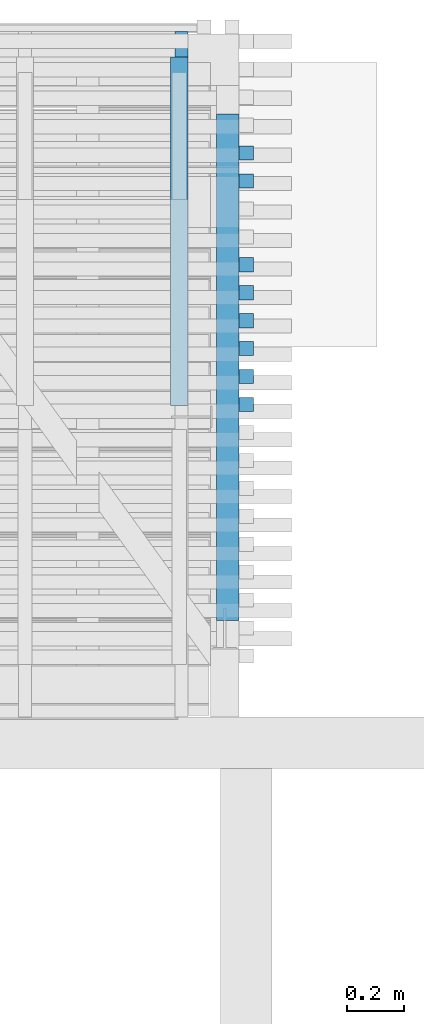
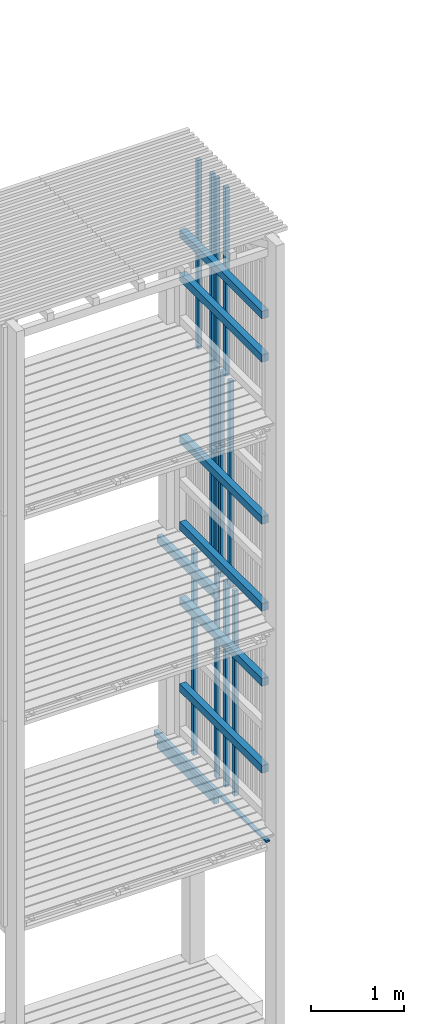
# One storey, part 156 of 182: 21 beams.
"""IFC2X3 building model written with IfcOpenShell, lengths in metres."""

from ifc_helpers import new_model, si_unit, frame, origin, place, context, project, spatial, faceted_brep, element, save


model = new_model("IFC2X3")

# Units and contexts
model_context = context("Model", 3, precision=1e-06, world=origin())
ifc_project = project(units=[si_unit("LENGTHUNIT", "METRE"), si_unit("PLANEANGLEUNIT", "RADIAN")], contexts=[model_context])

# Site, building, storey
site = spatial("IfcSite", under=ifc_project, CompositionType="ELEMENT")
building = spatial("IfcBuilding", under=site, CompositionType="ELEMENT")
storey = spatial("IfcBuildingStorey", under=building, Name="vs", CompositionType="ELEMENT", Elevation=-0.85)

# Beams
placement = place(None, origin())
beam_1_placement = place(placement, frame((36.40999999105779, 12.452350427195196, 2.575000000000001), z_axis=(-1.0, 0.0, 0.0), x_axis=(0.0, 0.0, 1.0)))
element("IfcBeam", 1, at=beam_1_placement, inside=storey, Name="Bardage", context=model_context, shape_type="Brep", body=[
    faceted_brep([(0.0, -0.024999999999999, 0.024999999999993), (0.0, 0.025000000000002, 0.024999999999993), (0.0, 0.025000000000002, -0.025000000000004), (0.0, -0.024999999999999, -0.025000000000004), (2.699961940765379, 0.025000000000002, -0.025000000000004), (2.699961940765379, 0.025000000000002, 0.024999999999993), (2.699961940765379, -0.024999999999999, 0.024999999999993), (2.699961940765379, -0.024999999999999, -0.025000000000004), (0.0, -0.024999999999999, -0.025000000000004), (0.0, 0.025000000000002, -0.025000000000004), (2.699961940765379, 0.025000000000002, -0.025000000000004), (2.699961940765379, -0.024999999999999, -0.025000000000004), (2.699961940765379, 0.025000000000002, -0.025000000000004), (0.0, 0.025000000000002, -0.025000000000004), (0.0, 0.025000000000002, 0.024999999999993), (2.699961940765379, 0.025000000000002, 0.024999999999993), (2.699961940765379, 0.025000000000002, 0.024999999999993), (0.0, 0.025000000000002, 0.024999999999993), (0.0, -0.024999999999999, 0.024999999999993), (2.699961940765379, -0.024999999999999, 0.024999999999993), (2.699961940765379, -0.024999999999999, 0.024999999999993), (0.0, -0.024999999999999, 0.024999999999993), (0.0, -0.024999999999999, -0.025000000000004), (2.699961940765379, -0.024999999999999, -0.025000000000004)], [[[0, 1, 2, 3]], [[4, 5, 6, 7]], [[8, 9, 10, 11]], [[12, 13, 14, 15]], [[16, 17, 18, 19]], [[20, 21, 22, 23]]]),
])
beam_2_placement = place(placement, frame((36.40999999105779, 11.961441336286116, 2.575000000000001), z_axis=(-1.0, 0.0, 0.0), x_axis=(0.0, 0.0, 1.0)))
element("IfcBeam", 2, at=beam_2_placement, inside=storey, Name="Bardage", context=model_context, shape_type="Brep", body=[
    faceted_brep([(0.0, -0.025000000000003, 0.024999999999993), (0.0, 0.024999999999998, 0.024999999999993), (0.0, 0.024999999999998, -0.025000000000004), (0.0, -0.025000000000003, -0.025000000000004), (2.699961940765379, 0.024999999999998, -0.025000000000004), (2.699961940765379, 0.024999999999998, 0.024999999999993), (2.699961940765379, -0.025000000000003, 0.024999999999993), (2.699961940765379, -0.025000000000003, -0.025000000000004), (0.0, -0.025000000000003, -0.025000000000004), (0.0, 0.024999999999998, -0.025000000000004), (2.699961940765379, 0.024999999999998, -0.025000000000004), (2.699961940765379, -0.025000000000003, -0.025000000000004), (2.699961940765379, 0.024999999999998, -0.025000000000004), (0.0, 0.024999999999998, -0.025000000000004), (0.0, 0.024999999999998, 0.024999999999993), (2.699961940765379, 0.024999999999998, 0.024999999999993), (2.699961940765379, 0.024999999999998, 0.024999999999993), (0.0, 0.024999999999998, 0.024999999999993), (0.0, -0.025000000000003, 0.024999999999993), (2.699961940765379, -0.025000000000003, 0.024999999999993), (2.699961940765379, -0.025000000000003, 0.024999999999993), (0.0, -0.025000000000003, 0.024999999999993), (0.0, -0.025000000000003, -0.025000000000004), (2.699961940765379, -0.025000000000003, -0.025000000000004)], [[[0, 1, 2, 3]], [[4, 5, 6, 7]], [[8, 9, 10, 11]], [[12, 13, 14, 15]], [[16, 17, 18, 19]], [[20, 21, 22, 23]]]),
])
beam_3_placement = place(placement, frame((36.182499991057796, 10.470077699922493, 2.684400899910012), z_axis=(0.0, 0.0, 1.0), x_axis=(0.0, 1.0, 0.0)))
element("IfcBeam", 3, at=beam_3_placement, inside=storey, Name="Calage", context=model_context, shape_type="Brep", body=[
    faceted_brep([(2.410000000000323, -0.022499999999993, -0.035599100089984), (0.0, -0.022499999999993, 0.012600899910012), (0.0, 0.022500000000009, 0.012600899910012), (2.410000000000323, 0.022500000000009, -0.035599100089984), (0.0, 0.022500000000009, 0.035599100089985), (0.0, 0.022500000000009, 0.012600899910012), (0.0, -0.022499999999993, 0.012600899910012), (0.0, -0.022499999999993, 0.035599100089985), (2.410000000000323, 0.022500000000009, -0.035599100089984), (0.0, 0.022500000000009, 0.012600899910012), (0.0, 0.022500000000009, 0.035599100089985), (2.410000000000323, 0.022500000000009, 0.035599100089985), (2.410000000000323, -0.022499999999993, 0.035599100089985), (0.0, -0.022499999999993, 0.035599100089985), (0.0, -0.022499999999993, 0.012600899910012), (2.410000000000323, -0.022499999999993, -0.035599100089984), (2.410000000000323, 0.022500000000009, 0.035599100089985), (0.0, 0.022500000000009, 0.035599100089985), (0.0, -0.022499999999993, 0.035599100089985), (2.410000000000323, -0.022499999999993, 0.035599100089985), (2.410000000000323, 0.022500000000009, -0.035599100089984), (2.410000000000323, 0.022500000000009, 0.035599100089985), (2.410000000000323, -0.022499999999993, 0.035599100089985), (2.410000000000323, -0.022499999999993, -0.035599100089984)], [[[0, 1, 2, 3]], [[4, 5, 6, 7]], [[8, 9, 10, 11]], [[12, 13, 14, 15]], [[16, 17, 18, 19]], [[20, 21, 22, 23]]]),
])
beam_4_placement = place(placement, frame((36.344999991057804, 10.8100776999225, 6.672499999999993), z_axis=(0.0, 0.0, 1.0), x_axis=(0.0, 1.0, 0.0)))
element("IfcBeam", 4, at=beam_4_placement, inside=storey, Name="Support bardage", context=model_context, shape_type="Brep", body=[
    faceted_brep([(1.779999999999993, -0.039999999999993, 0.050000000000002), (1.779999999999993, -0.039999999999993, -0.05), (1.779999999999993, 0.04000000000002, -0.05), (1.779999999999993, 0.04000000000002, 0.050000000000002), (-4e-15, -0.039999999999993, -0.05), (1.779999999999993, -0.039999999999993, -0.05), (1.779999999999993, -0.039999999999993, 0.050000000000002), (-4e-15, -0.039999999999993, 0.050000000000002), (-4e-15, 0.04000000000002, -0.05), (1.779999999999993, 0.04000000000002, -0.05), (1.779999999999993, -0.039999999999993, -0.05), (-4e-15, -0.039999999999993, -0.05), (-4e-15, 0.04000000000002, 0.050000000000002), (1.779999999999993, 0.04000000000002, 0.050000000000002), (1.779999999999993, 0.04000000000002, -0.05), (-4e-15, 0.04000000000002, -0.05), (-4e-15, -0.039999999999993, 0.050000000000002), (1.779999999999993, -0.039999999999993, 0.050000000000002), (1.779999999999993, 0.04000000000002, 0.050000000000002), (-4e-15, 0.04000000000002, 0.050000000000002), (-4e-15, -0.039999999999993, -0.05), (-4e-15, -0.039999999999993, 0.050000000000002), (-4e-15, 0.04000000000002, 0.050000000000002), (-4e-15, 0.04000000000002, -0.05)], [[[0, 1, 2, 3]], [[4, 5, 6, 7]], [[8, 9, 10, 11]], [[12, 13, 14, 15]], [[16, 17, 18, 19]], [[20, 21, 22, 23]]]),
])
beam_5_placement = place(placement, frame((36.40999999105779, 11.863259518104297, 5.274999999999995), z_axis=(-1.0, 0.0, 0.0), x_axis=(0.0, 0.0, 1.0)))
element("IfcBeam", 5, at=beam_5_placement, inside=storey, Name="Bardage", context=model_context, shape_type="Brep", body=[
    faceted_brep([(1e-15, -0.024999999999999, 0.024999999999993), (1e-15, 0.024999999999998, 0.024999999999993), (1e-15, 0.024999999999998, -0.025000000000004), (1e-15, -0.024999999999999, -0.025000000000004), (2.699999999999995, -0.024999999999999, -0.025000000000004), (2.699999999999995, 0.024999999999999, -0.025000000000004), (2.699999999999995, 0.024999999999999, 0.024999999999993), (2.699999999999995, -0.024999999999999, 0.024999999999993), (1e-15, -0.024999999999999, 0.024999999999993), (1e-15, -0.024999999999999, -0.025000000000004), (2.699999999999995, -0.024999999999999, -0.025000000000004), (2.699999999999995, -0.024999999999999, 0.024999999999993), (2.699999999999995, -0.024999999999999, -0.025000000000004), (1e-15, -0.024999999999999, -0.025000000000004), (1e-15, 0.024999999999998, -0.025000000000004), (2.699999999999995, 0.024999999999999, -0.025000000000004), (2.699999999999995, 0.024999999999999, -0.025000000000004), (1e-15, 0.024999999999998, -0.025000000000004), (1e-15, 0.024999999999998, 0.024999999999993), (2.699999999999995, 0.024999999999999, 0.024999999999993), (2.699999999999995, 0.024999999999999, 0.024999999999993), (1e-15, 0.024999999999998, 0.024999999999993), (1e-15, -0.024999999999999, 0.024999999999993), (2.699999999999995, -0.024999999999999, 0.024999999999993)], [[[0, 1, 2, 3]], [[4, 5, 6, 7]], [[8, 9, 10, 11]], [[12, 13, 14, 15]], [[16, 17, 18, 19]], [[20, 21, 22, 23]]]),
])
beam_6_placement = place(placement, frame((36.344999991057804, 10.8100776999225, 3.401250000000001), z_axis=(0.0, 0.0, 1.0), x_axis=(0.0, 1.0, 0.0)))
element("IfcBeam", 6, at=beam_6_placement, inside=storey, Name="Support bardage", context=model_context, shape_type="Brep", body=[
    faceted_brep([(1.779999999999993, -0.039999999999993, 0.05), (1.779999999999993, -0.039999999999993, -0.050000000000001), (1.779999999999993, 0.04000000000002, -0.050000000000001), (1.779999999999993, 0.04000000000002, 0.05), (-4e-15, -0.039999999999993, -0.050000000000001), (1.779999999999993, -0.039999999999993, -0.050000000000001), (1.779999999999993, -0.039999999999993, 0.05), (-4e-15, -0.039999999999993, 0.05), (-4e-15, 0.04000000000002, -0.050000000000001), (1.779999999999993, 0.04000000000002, -0.050000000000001), (1.779999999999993, -0.039999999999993, -0.050000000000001), (-4e-15, -0.039999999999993, -0.050000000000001), (-4e-15, 0.04000000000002, 0.05), (1.779999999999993, 0.04000000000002, 0.05), (1.779999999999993, 0.04000000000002, -0.050000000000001), (-4e-15, 0.04000000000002, -0.050000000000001), (-4e-15, -0.039999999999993, 0.05), (1.779999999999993, -0.039999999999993, 0.05), (1.779999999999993, 0.04000000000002, 0.05), (-4e-15, 0.04000000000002, 0.05), (-4e-15, -0.039999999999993, -0.050000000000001), (-4e-15, -0.039999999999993, 0.05), (-4e-15, 0.04000000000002, 0.05), (-4e-15, 0.04000000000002, -0.050000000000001)], [[[0, 1, 2, 3]], [[4, 5, 6, 7]], [[8, 9, 10, 11]], [[12, 13, 14, 15]], [[16, 17, 18, 19]], [[20, 21, 22, 23]]]),
])
beam_7_placement = place(placement, frame((36.40999999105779, 11.568714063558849, 2.575000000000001), z_axis=(-1.0, 0.0, 0.0), x_axis=(0.0, 0.0, 1.0)))
element("IfcBeam", 7, at=beam_7_placement, inside=storey, Name="Bardage", context=model_context, shape_type="Brep", body=[
    faceted_brep([(0.0, -0.024999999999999, 0.024999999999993), (0.0, 0.024999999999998, 0.024999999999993), (0.0, 0.024999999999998, -0.025000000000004), (0.0, -0.024999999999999, -0.025000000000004), (2.699961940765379, 0.024999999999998, -0.025000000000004), (2.699961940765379, 0.024999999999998, 0.024999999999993), (2.699961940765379, -0.024999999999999, 0.024999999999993), (2.699961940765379, -0.024999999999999, -0.025000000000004), (0.0, -0.024999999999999, -0.025000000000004), (0.0, 0.024999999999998, -0.025000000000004), (2.699961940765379, 0.024999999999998, -0.025000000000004), (2.699961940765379, -0.024999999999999, -0.025000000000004), (2.699961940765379, 0.024999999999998, -0.025000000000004), (0.0, 0.024999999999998, -0.025000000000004), (0.0, 0.024999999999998, 0.024999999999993), (2.699961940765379, 0.024999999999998, 0.024999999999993), (2.699961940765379, 0.024999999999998, 0.024999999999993), (0.0, 0.024999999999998, 0.024999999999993), (0.0, -0.024999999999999, 0.024999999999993), (2.699961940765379, -0.024999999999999, 0.024999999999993), (2.699961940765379, -0.024999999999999, 0.024999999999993), (0.0, -0.024999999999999, 0.024999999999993), (0.0, -0.024999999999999, -0.025000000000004), (2.699961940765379, -0.024999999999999, -0.025000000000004)], [[[0, 1, 2, 3]], [[4, 5, 6, 7]], [[8, 9, 10, 11]], [[12, 13, 14, 15]], [[16, 17, 18, 19]], [[20, 21, 22, 23]]]),
])
beam_8_placement = place(placement, frame((36.40999999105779, 12.059623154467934, 7.974999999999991), z_axis=(-1.0, 0.0, 0.0), x_axis=(0.0, 0.0, 1.0)))
element("IfcBeam", 8, at=beam_8_placement, inside=storey, Name="Bardage", context=model_context, shape_type="Brep", body=[
    faceted_brep([(2.479999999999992, -0.025000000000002, 0.024999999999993), (2.479999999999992, -0.025000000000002, -0.025000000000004), (2.479999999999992, 0.024999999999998, -0.025000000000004), (2.479999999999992, 0.024999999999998, 0.024999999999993), (0.0, 0.024999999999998, 0.024999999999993), (0.0, -0.025000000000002, 0.024999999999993), (2.479999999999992, -0.025000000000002, 0.024999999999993), (2.479999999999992, 0.024999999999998, 0.024999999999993), (0.0, -0.025000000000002, 0.024999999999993), (0.0, 0.024999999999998, 0.024999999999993), (0.0, 0.024999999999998, -0.025000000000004), (0.0, -0.025000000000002, -0.025000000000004), (0.0, 0.024999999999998, -0.025000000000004), (0.0, 0.024999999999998, 0.024999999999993), (2.479999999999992, 0.024999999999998, 0.024999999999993), (2.479999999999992, 0.024999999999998, -0.025000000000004), (0.0, -0.025000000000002, -0.025000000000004), (0.0, 0.024999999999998, -0.025000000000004), (2.479999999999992, 0.024999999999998, -0.025000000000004), (2.479999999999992, -0.025000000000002, -0.025000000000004), (2.479999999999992, -0.025000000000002, 0.024999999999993), (0.0, -0.025000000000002, 0.024999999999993), (0.0, -0.025000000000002, -0.025000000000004), (2.479999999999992, -0.025000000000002, -0.025000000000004)], [[[0, 1, 2, 3]], [[4, 5, 6, 7]], [[8, 9, 10, 11]], [[12, 13, 14, 15]], [[16, 17, 18, 19]], [[20, 21, 22, 23]]]),
])
beam_9_placement = place(placement, frame((36.344999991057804, 10.8100776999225, 9.37249999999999), z_axis=(0.0, 0.0, 1.0), x_axis=(0.0, 1.0, 0.0)))
element("IfcBeam", 9, at=beam_9_placement, inside=storey, Name="Support bardage", context=model_context, shape_type="Brep", body=[
    faceted_brep([(1.779999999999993, -0.039999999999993, 0.050000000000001), (1.779999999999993, -0.039999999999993, -0.050000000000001), (1.779999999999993, 0.04000000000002, -0.050000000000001), (1.779999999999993, 0.04000000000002, 0.050000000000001), (-4e-15, -0.039999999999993, -0.050000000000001), (1.779999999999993, -0.039999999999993, -0.050000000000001), (1.779999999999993, -0.039999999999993, 0.050000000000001), (-4e-15, -0.039999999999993, 0.050000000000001), (-4e-15, 0.04000000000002, -0.050000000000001), (1.779999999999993, 0.04000000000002, -0.050000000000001), (1.779999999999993, -0.039999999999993, -0.050000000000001), (-4e-15, -0.039999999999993, -0.050000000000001), (-4e-15, 0.04000000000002, 0.050000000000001), (1.779999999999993, 0.04000000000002, 0.050000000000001), (1.779999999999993, 0.04000000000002, -0.050000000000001), (-4e-15, 0.04000000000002, -0.050000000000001), (-4e-15, -0.039999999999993, 0.050000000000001), (1.779999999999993, -0.039999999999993, 0.050000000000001), (1.779999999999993, 0.04000000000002, 0.050000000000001), (-4e-15, 0.04000000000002, 0.050000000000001), (-4e-15, -0.039999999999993, -0.050000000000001), (-4e-15, -0.039999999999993, 0.050000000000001), (-4e-15, 0.04000000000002, 0.050000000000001), (-4e-15, 0.04000000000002, -0.050000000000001)], [[[0, 1, 2, 3]], [[4, 5, 6, 7]], [[8, 9, 10, 11]], [[12, 13, 14, 15]], [[16, 17, 18, 19]], [[20, 21, 22, 23]]]),
])
beam_10_placement = place(placement, frame((36.344999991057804, 10.8100776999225, 5.529999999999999), z_axis=(0.0, 0.0, 1.0), x_axis=(0.0, 1.0, 0.0)))
element("IfcBeam", 10, at=beam_10_placement, inside=storey, Name="Support bardage", context=model_context, shape_type="Brep", body=[
    faceted_brep([(1.779999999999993, -0.039999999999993, 0.05), (1.779999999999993, -0.039999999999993, -0.050000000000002), (1.779999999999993, 0.04000000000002, -0.050000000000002), (1.779999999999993, 0.04000000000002, 0.05), (-4e-15, -0.039999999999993, -0.050000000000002), (1.779999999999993, -0.039999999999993, -0.050000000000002), (1.779999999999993, -0.039999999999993, 0.05), (-4e-15, -0.039999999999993, 0.05), (-4e-15, 0.04000000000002, -0.050000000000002), (1.779999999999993, 0.04000000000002, -0.050000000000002), (1.779999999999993, -0.039999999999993, -0.050000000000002), (-4e-15, -0.039999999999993, -0.050000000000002), (-4e-15, 0.04000000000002, 0.05), (1.779999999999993, 0.04000000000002, 0.05), (1.779999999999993, 0.04000000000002, -0.050000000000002), (-4e-15, 0.04000000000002, -0.050000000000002), (-4e-15, -0.039999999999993, 0.05), (1.779999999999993, -0.039999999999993, 0.05), (1.779999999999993, 0.04000000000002, 0.05), (-4e-15, 0.04000000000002, 0.05), (-4e-15, -0.039999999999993, -0.050000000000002), (-4e-15, -0.039999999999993, 0.05), (-4e-15, 0.04000000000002, 0.05), (-4e-15, 0.04000000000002, -0.050000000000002)], [[[0, 1, 2, 3]], [[4, 5, 6, 7]], [[8, 9, 10, 11]], [[12, 13, 14, 15]], [[16, 17, 18, 19]], [[20, 21, 22, 23]]]),
])
beam_11_placement = place(placement, frame((36.40999999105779, 11.765077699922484, 2.575000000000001), z_axis=(-1.0, 0.0, 0.0), x_axis=(0.0, 0.0, 1.0)))
element("IfcBeam", 11, at=beam_11_placement, inside=storey, Name="Bardage", context=model_context, shape_type="Brep", body=[
    faceted_brep([(0.0, -0.025000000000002, 0.024999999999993), (0.0, 0.024999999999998, 0.024999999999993), (0.0, 0.024999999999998, -0.025000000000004), (0.0, -0.025000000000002, -0.025000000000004), (2.699961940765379, 0.024999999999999, -0.025000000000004), (2.699961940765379, 0.024999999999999, 0.024999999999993), (2.699961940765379, -0.025000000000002, 0.024999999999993), (2.699961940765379, -0.025000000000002, -0.025000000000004), (0.0, -0.025000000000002, -0.025000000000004), (0.0, 0.024999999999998, -0.025000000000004), (2.699961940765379, 0.024999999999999, -0.025000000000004), (2.699961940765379, -0.025000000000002, -0.025000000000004), (2.699961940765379, 0.024999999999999, -0.025000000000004), (0.0, 0.024999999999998, -0.025000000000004), (0.0, 0.024999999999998, 0.024999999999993), (2.699961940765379, 0.024999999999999, 0.024999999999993), (2.699961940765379, 0.024999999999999, 0.024999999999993), (0.0, 0.024999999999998, 0.024999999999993), (0.0, -0.025000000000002, 0.024999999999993), (2.699961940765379, -0.025000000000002, 0.024999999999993), (2.699961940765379, -0.025000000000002, 0.024999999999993), (0.0, -0.025000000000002, 0.024999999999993), (0.0, -0.025000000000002, -0.025000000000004), (2.699961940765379, -0.025000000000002, -0.025000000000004)], [[[0, 1, 2, 3]], [[4, 5, 6, 7]], [[8, 9, 10, 11]], [[12, 13, 14, 15]], [[16, 17, 18, 19]], [[20, 21, 22, 23]]]),
])
beam_12_placement = place(placement, frame((36.40999999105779, 11.961441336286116, 5.274999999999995), z_axis=(-1.0, 0.0, 0.0), x_axis=(0.0, 0.0, 1.0)))
element("IfcBeam", 12, at=beam_12_placement, inside=storey, Name="Bardage", context=model_context, shape_type="Brep", body=[
    faceted_brep([(1e-15, -0.025000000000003, 0.024999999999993), (1e-15, 0.024999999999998, 0.024999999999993), (1e-15, 0.024999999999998, -0.025000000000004), (1e-15, -0.025000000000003, -0.025000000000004), (2.699999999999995, -0.025000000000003, -0.025000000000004), (2.699999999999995, 0.024999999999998, -0.025000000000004), (2.699999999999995, 0.024999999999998, 0.024999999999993), (2.699999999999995, -0.025000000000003, 0.024999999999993), (1e-15, -0.025000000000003, 0.024999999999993), (1e-15, -0.025000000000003, -0.025000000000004), (2.699999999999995, -0.025000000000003, -0.025000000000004), (2.699999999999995, -0.025000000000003, 0.024999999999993), (2.699999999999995, -0.025000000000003, -0.025000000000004), (1e-15, -0.025000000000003, -0.025000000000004), (1e-15, 0.024999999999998, -0.025000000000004), (2.699999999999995, 0.024999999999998, -0.025000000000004), (2.699999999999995, 0.024999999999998, -0.025000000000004), (1e-15, 0.024999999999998, -0.025000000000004), (1e-15, 0.024999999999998, 0.024999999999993), (2.699999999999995, 0.024999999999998, 0.024999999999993), (2.699999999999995, 0.024999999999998, 0.024999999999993), (1e-15, 0.024999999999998, 0.024999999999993), (1e-15, -0.025000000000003, 0.024999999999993), (2.699999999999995, -0.025000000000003, 0.024999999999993)], [[[0, 1, 2, 3]], [[4, 5, 6, 7]], [[8, 9, 10, 11]], [[12, 13, 14, 15]], [[16, 17, 18, 19]], [[20, 21, 22, 23]]]),
])
beam_13_placement = place(placement, frame((36.40999999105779, 12.059623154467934, 5.274999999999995), z_axis=(-1.0, 0.0, 0.0), x_axis=(0.0, 0.0, 1.0)))
element("IfcBeam", 13, at=beam_13_placement, inside=storey, Name="Bardage", context=model_context, shape_type="Brep", body=[
    faceted_brep([(1e-15, -0.025000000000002, 0.024999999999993), (1e-15, 0.024999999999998, 0.024999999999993), (1e-15, 0.024999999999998, -0.025000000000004), (1e-15, -0.025000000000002, -0.025000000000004), (2.699999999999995, -0.025000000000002, -0.025000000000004), (2.699999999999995, 0.024999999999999, -0.025000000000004), (2.699999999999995, 0.024999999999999, 0.024999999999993), (2.699999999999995, -0.025000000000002, 0.024999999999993), (1e-15, -0.025000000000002, 0.024999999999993), (1e-15, -0.025000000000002, -0.025000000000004), (2.699999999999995, -0.025000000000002, -0.025000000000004), (2.699999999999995, -0.025000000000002, 0.024999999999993), (2.699999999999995, -0.025000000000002, -0.025000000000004), (1e-15, -0.025000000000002, -0.025000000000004), (1e-15, 0.024999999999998, -0.025000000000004), (2.699999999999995, 0.024999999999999, -0.025000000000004), (2.699999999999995, 0.024999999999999, -0.025000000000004), (1e-15, 0.024999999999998, -0.025000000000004), (1e-15, 0.024999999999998, 0.024999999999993), (2.699999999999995, 0.024999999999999, 0.024999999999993), (2.699999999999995, 0.024999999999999, 0.024999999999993), (1e-15, 0.024999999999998, 0.024999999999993), (1e-15, -0.025000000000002, 0.024999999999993), (2.699999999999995, -0.025000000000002, 0.024999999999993)], [[[0, 1, 2, 3]], [[4, 5, 6, 7]], [[8, 9, 10, 11]], [[12, 13, 14, 15]], [[16, 17, 18, 19]], [[20, 21, 22, 23]]]),
])
beam_14_placement = place(placement, frame((36.40999999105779, 11.666895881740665, 5.274999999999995), z_axis=(-1.0, 0.0, 0.0), x_axis=(0.0, 0.0, 1.0)))
element("IfcBeam", 14, at=beam_14_placement, inside=storey, Name="Bardage", context=model_context, shape_type="Brep", body=[
    faceted_brep([(1e-15, -0.025000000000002, 0.024999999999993), (1e-15, 0.024999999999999, 0.024999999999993), (1e-15, 0.024999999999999, -0.025000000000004), (1e-15, -0.025000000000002, -0.025000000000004), (2.699999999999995, -0.025000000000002, -0.025000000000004), (2.699999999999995, 0.024999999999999, -0.025000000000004), (2.699999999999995, 0.024999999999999, 0.024999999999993), (2.699999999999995, -0.025000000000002, 0.024999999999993), (1e-15, -0.025000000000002, 0.024999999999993), (1e-15, -0.025000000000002, -0.025000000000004), (2.699999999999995, -0.025000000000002, -0.025000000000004), (2.699999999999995, -0.025000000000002, 0.024999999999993), (2.699999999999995, -0.025000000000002, -0.025000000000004), (1e-15, -0.025000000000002, -0.025000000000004), (1e-15, 0.024999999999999, -0.025000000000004), (2.699999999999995, 0.024999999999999, -0.025000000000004), (2.699999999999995, 0.024999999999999, -0.025000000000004), (1e-15, 0.024999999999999, -0.025000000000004), (1e-15, 0.024999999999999, 0.024999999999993), (2.699999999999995, 0.024999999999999, 0.024999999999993), (2.699999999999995, 0.024999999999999, 0.024999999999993), (1e-15, 0.024999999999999, 0.024999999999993), (1e-15, -0.025000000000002, 0.024999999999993), (2.699999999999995, -0.025000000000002, 0.024999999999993)], [[[0, 1, 2, 3]], [[4, 5, 6, 7]], [[8, 9, 10, 11]], [[12, 13, 14, 15]], [[16, 17, 18, 19]], [[20, 21, 22, 23]]]),
])
beam_15_placement = place(placement, frame((36.344999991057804, 10.8100776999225, 8.80124999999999), z_axis=(0.0, 0.0, 1.0), x_axis=(0.0, 1.0, 0.0)))
element("IfcBeam", 15, at=beam_15_placement, inside=storey, Name="Support bardage", context=model_context, shape_type="Brep", body=[
    faceted_brep([(1.779999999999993, -0.039999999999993, 0.050000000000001), (1.779999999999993, -0.039999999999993, -0.050000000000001), (1.779999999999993, 0.04000000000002, -0.050000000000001), (1.779999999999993, 0.04000000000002, 0.050000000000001), (-4e-15, -0.039999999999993, -0.050000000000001), (1.779999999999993, -0.039999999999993, -0.050000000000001), (1.779999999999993, -0.039999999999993, 0.050000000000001), (-4e-15, -0.039999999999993, 0.050000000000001), (-4e-15, 0.04000000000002, -0.050000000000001), (1.779999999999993, 0.04000000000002, -0.050000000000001), (1.779999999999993, -0.039999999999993, -0.050000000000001), (-4e-15, -0.039999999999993, -0.050000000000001), (-4e-15, 0.04000000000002, 0.050000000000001), (1.779999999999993, 0.04000000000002, 0.050000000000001), (1.779999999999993, 0.04000000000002, -0.050000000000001), (-4e-15, 0.04000000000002, -0.050000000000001), (-4e-15, -0.039999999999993, 0.050000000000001), (1.779999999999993, -0.039999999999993, 0.050000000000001), (1.779999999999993, 0.04000000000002, 0.050000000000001), (-4e-15, 0.04000000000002, 0.050000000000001), (-4e-15, -0.039999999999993, -0.050000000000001), (-4e-15, -0.039999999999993, 0.050000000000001), (-4e-15, 0.04000000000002, 0.050000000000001), (-4e-15, 0.04000000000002, -0.050000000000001)], [[[0, 1, 2, 3]], [[4, 5, 6, 7]], [[8, 9, 10, 11]], [[12, 13, 14, 15]], [[16, 17, 18, 19]], [[20, 21, 22, 23]]]),
])
beam_16_placement = place(placement, frame((36.17499999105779, 11.565077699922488, 5.304249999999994), z_axis=(0.0, 0.0, 1.0), x_axis=(0.0, 1.0, 0.0)))
element("IfcBeam", 16, at=beam_16_placement, inside=storey, Name="Solive", context=model_context, shape_type="Brep", body=[
    faceted_brep([(0.0, -0.03, 0.061850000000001), (0.0, -0.03, -0.061849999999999), (1.225000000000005, -0.03, -0.061849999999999), (1.225000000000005, -0.03, 0.03735), (0.0, -0.03, -0.061849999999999), (0.0, -0.03, 0.061850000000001), (0.0, 0.029999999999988, 0.06185), (0.0, 0.029999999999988, -0.061849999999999), (1.225000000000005, -0.03, -0.061849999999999), (0.0, -0.03, -0.061849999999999), (0.0, 0.029999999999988, -0.061849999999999), (1.225000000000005, 0.029999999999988, -0.061849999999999), (1.225000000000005, 0.029999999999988, 0.03735), (1.225000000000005, 0.029999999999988, -0.061849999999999), (0.0, 0.029999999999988, -0.061849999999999), (0.0, 0.029999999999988, 0.06185), (1.225000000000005, -0.03, 0.03735), (1.225000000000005, -0.03, -0.061849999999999), (1.225000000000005, 0.029999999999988, -0.061849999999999), (1.225000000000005, 0.029999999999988, 0.03735), (1.225000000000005, -0.03, 0.03735), (1.225000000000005, 0.029999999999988, 0.03735), (0.0, 0.029999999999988, 0.06185), (0.0, -0.03, 0.061850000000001)], [[[0, 1, 2, 3]], [[4, 5, 6, 7]], [[8, 9, 10, 11]], [[12, 13, 14, 15]], [[16, 17, 18, 19]], [[20, 21, 22, 23]]]),
])
beam_17_placement = place(placement, frame((36.40999999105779, 11.961441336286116, 7.974999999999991), z_axis=(-1.0, 0.0, 0.0), x_axis=(0.0, 0.0, 1.0)))
element("IfcBeam", 17, at=beam_17_placement, inside=storey, Name="Bardage", context=model_context, shape_type="Brep", body=[
    faceted_brep([(2.479999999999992, -0.025000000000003, 0.024999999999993), (2.479999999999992, -0.025000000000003, -0.025000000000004), (2.479999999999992, 0.024999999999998, -0.025000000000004), (2.479999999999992, 0.024999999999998, 0.024999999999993), (0.0, 0.024999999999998, 0.024999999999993), (0.0, -0.025000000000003, 0.024999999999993), (2.479999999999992, -0.025000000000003, 0.024999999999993), (2.479999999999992, 0.024999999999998, 0.024999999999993), (0.0, -0.025000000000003, 0.024999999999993), (0.0, 0.024999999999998, 0.024999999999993), (0.0, 0.024999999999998, -0.025000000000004), (0.0, -0.025000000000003, -0.025000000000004), (0.0, 0.024999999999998, -0.025000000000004), (0.0, 0.024999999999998, 0.024999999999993), (2.479999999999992, 0.024999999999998, 0.024999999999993), (2.479999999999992, 0.024999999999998, -0.025000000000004), (0.0, -0.025000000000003, -0.025000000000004), (0.0, 0.024999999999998, -0.025000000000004), (2.479999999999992, 0.024999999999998, -0.025000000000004), (2.479999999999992, -0.025000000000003, -0.025000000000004), (2.479999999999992, -0.025000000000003, 0.024999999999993), (0.0, -0.025000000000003, 0.024999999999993), (0.0, -0.025000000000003, -0.025000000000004), (2.479999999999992, -0.025000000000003, -0.025000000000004)], [[[0, 1, 2, 3]], [[4, 5, 6, 7]], [[8, 9, 10, 11]], [[12, 13, 14, 15]], [[16, 17, 18, 19]], [[20, 21, 22, 23]]]),
])
beam_18_placement = place(placement, frame((36.40999999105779, 11.765077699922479, 7.974999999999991), z_axis=(-1.0, 0.0, 0.0), x_axis=(0.0, 1e-15, 1.0)))
element("IfcBeam", 18, at=beam_18_placement, inside=storey, Name="Bardage", context=model_context, shape_type="Brep", body=[
    faceted_brep([(2.479999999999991, -0.025000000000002, 0.024999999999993), (2.479999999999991, -0.025000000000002, -0.025000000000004), (2.479999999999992, 0.024999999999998, -0.025000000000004), (2.479999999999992, 0.024999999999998, 0.024999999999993), (0.0, 0.025000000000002, 0.024999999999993), (0.0, -0.024999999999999, 0.024999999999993), (2.479999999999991, -0.025000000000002, 0.024999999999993), (2.479999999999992, 0.024999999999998, 0.024999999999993), (0.0, -0.024999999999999, 0.024999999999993), (0.0, 0.025000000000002, 0.024999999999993), (0.0, 0.025000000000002, -0.025000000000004), (0.0, -0.024999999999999, -0.025000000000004), (0.0, 0.025000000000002, -0.025000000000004), (0.0, 0.025000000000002, 0.024999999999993), (2.479999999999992, 0.024999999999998, 0.024999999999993), (2.479999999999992, 0.024999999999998, -0.025000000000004), (0.0, -0.024999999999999, -0.025000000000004), (0.0, 0.025000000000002, -0.025000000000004), (2.479999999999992, 0.024999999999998, -0.025000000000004), (2.479999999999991, -0.025000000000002, -0.025000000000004), (2.479999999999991, -0.025000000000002, 0.024999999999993), (0.0, -0.024999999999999, 0.024999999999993), (0.0, -0.024999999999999, -0.025000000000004), (2.479999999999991, -0.025000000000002, -0.025000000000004)], [[[0, 1, 2, 3]], [[4, 5, 6, 7]], [[8, 9, 10, 11]], [[12, 13, 14, 15]], [[16, 17, 18, 19]], [[20, 21, 22, 23]]]),
])
beam_19_placement = place(placement, frame((36.344999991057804, 10.8100776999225, 4.543749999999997), z_axis=(0.0, 0.0, 1.0), x_axis=(0.0, 1.0, 0.0)))
element("IfcBeam", 19, at=beam_19_placement, inside=storey, Name="Support bardage", context=model_context, shape_type="Brep", body=[
    faceted_brep([(1.779999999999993, -0.039999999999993, 0.050000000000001), (1.779999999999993, -0.039999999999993, -0.050000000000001), (1.779999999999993, 0.04000000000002, -0.050000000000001), (1.779999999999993, 0.04000000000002, 0.050000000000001), (-4e-15, -0.039999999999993, -0.050000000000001), (1.779999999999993, -0.039999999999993, -0.050000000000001), (1.779999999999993, -0.039999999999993, 0.050000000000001), (-4e-15, -0.039999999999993, 0.050000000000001), (-4e-15, 0.04000000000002, -0.050000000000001), (1.779999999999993, 0.04000000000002, -0.050000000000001), (1.779999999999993, -0.039999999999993, -0.050000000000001), (-4e-15, -0.039999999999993, -0.050000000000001), (-4e-15, 0.04000000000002, 0.050000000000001), (1.779999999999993, 0.04000000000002, 0.050000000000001), (1.779999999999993, 0.04000000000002, -0.050000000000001), (-4e-15, 0.04000000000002, -0.050000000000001), (-4e-15, -0.039999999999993, 0.050000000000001), (1.779999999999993, -0.039999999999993, 0.050000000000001), (1.779999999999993, 0.04000000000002, 0.050000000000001), (-4e-15, 0.04000000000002, 0.050000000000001), (-4e-15, -0.039999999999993, -0.050000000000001), (-4e-15, -0.039999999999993, 0.050000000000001), (-4e-15, 0.04000000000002, 0.050000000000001), (-4e-15, 0.04000000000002, -0.050000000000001)], [[[0, 1, 2, 3]], [[4, 5, 6, 7]], [[8, 9, 10, 11]], [[12, 13, 14, 15]], [[16, 17, 18, 19]], [[20, 21, 22, 23]]]),
])
beam_20_placement = place(placement, frame((36.17499999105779, 11.565077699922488, 2.604249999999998), z_axis=(0.0, 0.0, 1.0), x_axis=(0.0, 1.0, 0.0)))
element("IfcBeam", 20, at=beam_20_placement, inside=storey, Name="Solive", context=model_context, shape_type="Brep", body=[
    faceted_brep([(0.0, -0.03, 0.06185), (0.0, -0.03, -0.06185), (1.225000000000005, -0.03, -0.06185), (1.225000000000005, -0.03, 0.03735), (0.0, -0.03, -0.06185), (0.0, -0.03, 0.06185), (0.0, 0.029999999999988, 0.06185), (0.0, 0.029999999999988, -0.06185), (1.225000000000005, -0.03, -0.06185), (0.0, -0.03, -0.06185), (0.0, 0.029999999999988, -0.06185), (1.225000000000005, 0.029999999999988, -0.06185), (1.225000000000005, 0.029999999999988, 0.03735), (1.225000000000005, 0.029999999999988, -0.06185), (0.0, 0.029999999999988, -0.06185), (0.0, 0.029999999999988, 0.06185), (1.225000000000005, -0.03, 0.03735), (1.225000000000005, -0.03, -0.06185), (1.225000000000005, 0.029999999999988, -0.06185), (1.225000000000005, 0.029999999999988, 0.03735), (1.225000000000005, -0.03, 0.03735), (1.225000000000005, 0.029999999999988, 0.03735), (0.0, 0.029999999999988, 0.06185), (0.0, -0.03, 0.06185)], [[[0, 1, 2, 3]], [[4, 5, 6, 7]], [[8, 9, 10, 11]], [[12, 13, 14, 15]], [[16, 17, 18, 19]], [[20, 21, 22, 23]]]),
])
beam_21_placement = place(placement, frame((36.40999999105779, 12.354168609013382, 7.974999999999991), z_axis=(-1.0, 0.0, 0.0), x_axis=(0.0, 0.0, 1.0)))
element("IfcBeam", 21, at=beam_21_placement, inside=storey, Name="Bardage", context=model_context, shape_type="Brep", body=[
    faceted_brep([(2.479999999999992, -0.024999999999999, 0.024999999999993), (2.479999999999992, -0.024999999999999, -0.025000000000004), (2.479999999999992, 0.024999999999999, -0.025000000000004), (2.479999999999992, 0.024999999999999, 0.024999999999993), (0.0, 0.024999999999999, 0.024999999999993), (0.0, -0.024999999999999, 0.024999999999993), (2.479999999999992, -0.024999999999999, 0.024999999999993), (2.479999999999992, 0.024999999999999, 0.024999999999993), (0.0, -0.024999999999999, 0.024999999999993), (0.0, 0.024999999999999, 0.024999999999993), (0.0, 0.024999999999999, -0.025000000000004), (0.0, -0.024999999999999, -0.025000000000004), (0.0, 0.024999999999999, -0.025000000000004), (0.0, 0.024999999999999, 0.024999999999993), (2.479999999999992, 0.024999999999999, 0.024999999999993), (2.479999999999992, 0.024999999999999, -0.025000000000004), (0.0, -0.024999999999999, -0.025000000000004), (0.0, 0.024999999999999, -0.025000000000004), (2.479999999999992, 0.024999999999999, -0.025000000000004), (2.479999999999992, -0.024999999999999, -0.025000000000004), (2.479999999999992, -0.024999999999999, 0.024999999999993), (0.0, -0.024999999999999, 0.024999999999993), (0.0, -0.024999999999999, -0.025000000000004), (2.479999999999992, -0.024999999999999, -0.025000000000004)], [[[0, 1, 2, 3]], [[4, 5, 6, 7]], [[8, 9, 10, 11]], [[12, 13, 14, 15]], [[16, 17, 18, 19]], [[20, 21, 22, 23]]]),
])

save(model, "model.ifc")
